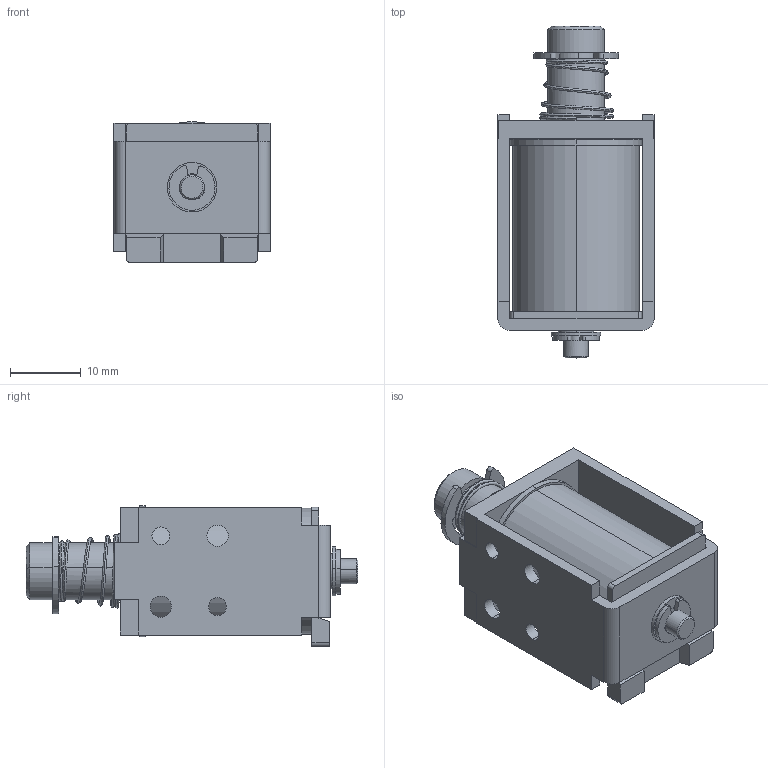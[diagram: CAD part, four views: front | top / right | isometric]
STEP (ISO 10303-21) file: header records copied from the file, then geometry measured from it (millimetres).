
FILE_DESCRIPTION (( 'STEP AP203' ), '1' );
FILE_NAME ('w_cb0830.STEP', '2014-07-16T04:34:25', ( 'jiba' ), ( 'Hewlett-Packard Company' ), 'SwSTEP 2.0', 'SolidWorks 2014', '' );
FILE_SCHEMA (( 'CONFIG_CONTROL_DESIGN' ));
Length unit declared in the file: millimetre
Products named in the file (4): w_20830083; w_cb0830; Part2^w_cb0830; Part1^w_cb0830_pl
Assembly tree (3 placements, depth 2):
  w_cb0830
    Part2^w_cb0830
    Part1^w_cb0830_pl
    w_20830083
Bounding box: 22 x 46.8 x 19.85 mm (x, y, z)
Volume: 9845.1 mm3; surface area: 7748.8 mm2
Topology: 3 solids, 3 shells, 173 faces, 477 edges, 310 vertices
Faces by surface type: cylinder 82, plane 81, cone 8, bspline 2
Entity records: 8767 total; most frequent: CARTESIAN_POINT 3734, DIRECTION 1027, ORIENTED_EDGE 954, EDGE_CURVE 477, AXIS2_PLACEMENT_3D 379, VERTEX_POINT 310, LINE 269, VECTOR 269
